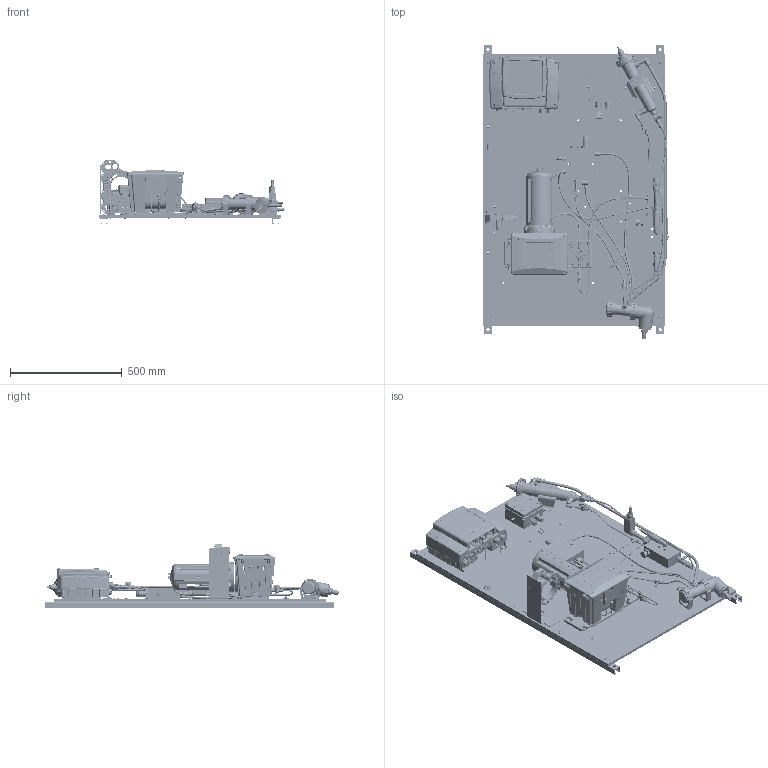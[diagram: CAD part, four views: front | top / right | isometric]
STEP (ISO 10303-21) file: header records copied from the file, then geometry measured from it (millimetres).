
FILE_DESCRIPTION (( 'STEP AP214' ), '1' );
FILE_NAME ('886XXXXCL1087.STEP', '2026-01-09T17:46:09', ( '' ), ( '' ), 'SwSTEP 2.0', 'SolidWorks 2024', '' );
FILE_SCHEMA (( 'AUTOMOTIVE_DESIGN' ));
Products named in the file (1): 886XXXXCL1087
Bounding box: 829.95 x 1317.12 x 291.09 mm (x, y, z)
Surface area: 4075319.4 mm2 (no closed solid volume)
Topology: 0 solids, 1210 shells, 5276 faces, 25578 edges, 21190 vertices
Faces by surface type: plane 1748, cylinder 1626, bspline 1068, cone 546, torus 220, sphere 68
Entity records: 359709 total; most frequent: CARTESIAN_POINT 176069, DIRECTION 33637, ORIENTED_EDGE 32622, EDGE_CURVE 25555, VERTEX_POINT 21186, VECTOR 11641, LINE 11641, AXIS2_PLACEMENT_3D 10998
